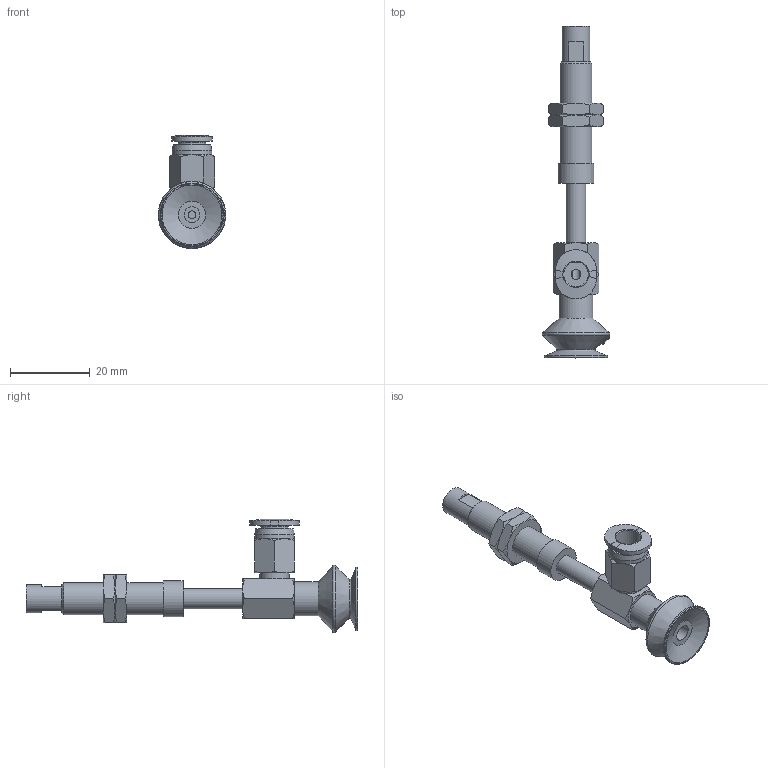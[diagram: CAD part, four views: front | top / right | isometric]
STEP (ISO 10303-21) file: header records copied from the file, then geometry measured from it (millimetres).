
FILE_DESCRIPTION(('STEP AP203'),'1');
FILE_NAME('-O.stp','2025-04-02T00:26:42',(' '),(' '),'Spatial InterOp 3D',' ',' ');
FILE_SCHEMA(('CONFIG_CONTROL_DESIGN'));
Length unit declared in the file: millimetre
Products named in the file (9): BNABPBYS-15A-15-※-O; CONNECTOR-15A-15-PB; Nut-15A-S-PB; NAPBTS-15A-15--F; NAPBTS-15A-15--M; BPBG-15A-※; __27; BPBG-15A; PC-C_06-M5
Assembly tree (9 placements, depth 3):
  BNABPBYS-15A-15-※-O
    CONNECTOR-15A-15-PB
    Nut-15A-S-PB  x2
    NAPBTS-15A-15--F
    NAPBTS-15A-15--M
    BPBG-15A-※
      __27
      BPBG-15A
    PC-C_06-M5
Bounding box: 16.99 x 83.5 x 28.48 mm (x, y, z)
Volume: 5029.1 mm3; surface area: 6650 mm2
Topology: 7 solids, 10 shells, 195 faces, 410 edges, 250 vertices
Faces by surface type: cone 71, plane 69, cylinder 27, torus 13, bspline 12, revolution 3
Full cylindrical faces by diameter (mm): 2 x1, 4 x5, 4.134 x2, 5 x4, 6 x2, 7 x2, 7.188 x2, 7.4 x1, 8 x1, 8.2 x1, 8.5 x1, 9 x1, 10 x1, 16 x1
Entity records: 6237 total; most frequent: CARTESIAN_POINT 2562, DIRECTION 656, ORIENTED_EDGE 582, AXIS2_PLACEMENT_3D 294, EDGE_CURVE 293, EDGE_LOOP 255, VERTEX_POINT 208, FACE_OUTER_BOUND 149
